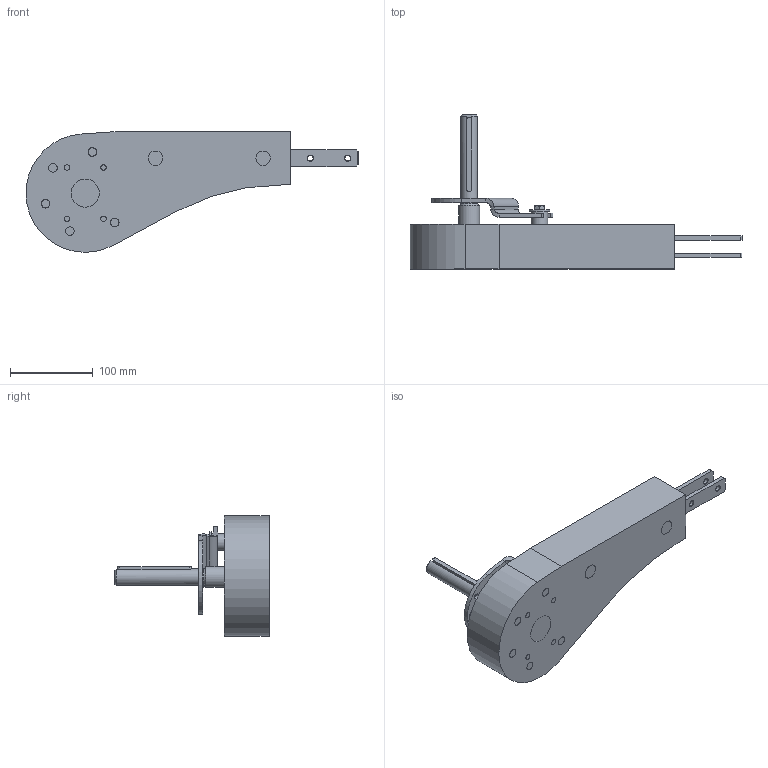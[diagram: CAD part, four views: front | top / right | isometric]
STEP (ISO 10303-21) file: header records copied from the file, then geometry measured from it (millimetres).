
FILE_DESCRIPTION(/* description */ ('Endantriebseinheit'),/* implementation_level */ '2;1');
FILE_NAME(/* name */ 'T:\vdz0\Step Daten Website\modulflex FS-System\Antriebseinheiten rechts - links\FSEB_HNRGP_M-71398.stp',/* time_stamp */ '2024-08-20T12:46:26+02:00',/* author */ ('vdz0'),/* organization */ ('modular automation GmbH'),/* preprocessor_version */ 'ST-DEVELOPER v18.1',/* originating_system */ 'Autodesk Inventor 2021',/* authorisation */ '');
FILE_SCHEMA (('CONFIG_CONTROL_DESIGN'));
Length unit declared in the file: millimetre
Products named in the file (1): FSEB_HNRGP
Bounding box: 400.88 x 186.3 x 145.69 mm (x, y, z)
Volume: 1828818.3 mm3; surface area: 146788.1 mm2
Topology: 1 solids, 1 shells, 192 faces, 452 edges, 292 vertices
Faces by surface type: plane 103, cylinder 56, cone 28, bspline 4, torus 1
Full cylindrical faces by diameter (mm): 4.917 x1, 6.647 x12, 7.323 x1, 8 x1, 8.5 x1, 17.5 x4, 20 x2, 25 x1, 34 x2, 50 x1
Entity records: 6274 total; most frequent: CARTESIAN_POINT 1422, DIRECTION 959, ORIENTED_EDGE 902, EDGE_CURVE 451, AXIS2_PLACEMENT_3D 343, VERTEX_POINT 292, LINE 273, VECTOR 273
